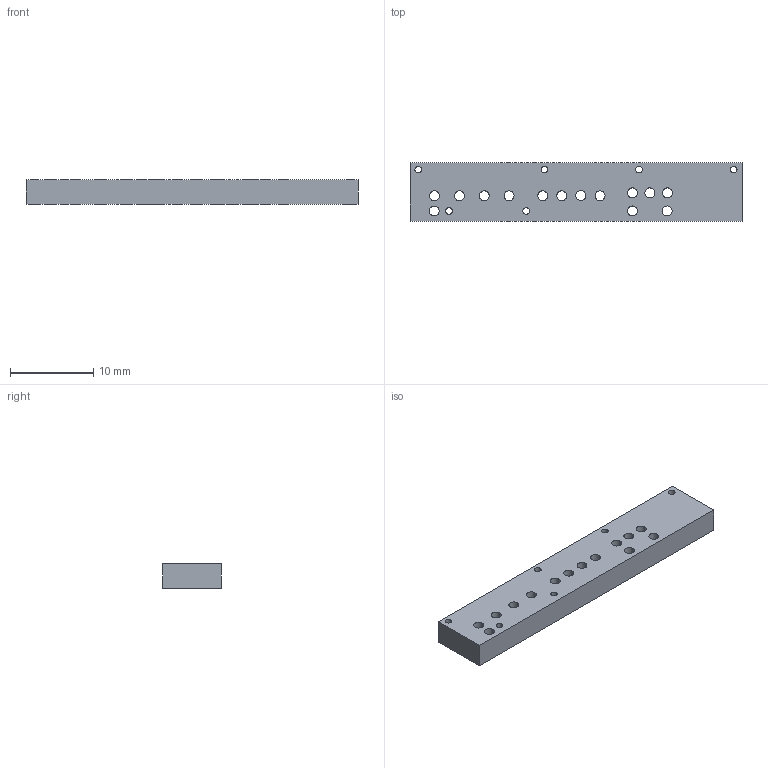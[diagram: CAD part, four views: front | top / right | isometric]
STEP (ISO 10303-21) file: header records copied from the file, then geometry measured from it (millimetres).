
FILE_DESCRIPTION((''),'2;1');
FILE_NAME('YC0003AA','2021-07-28T',('admin'),(''),'PRO/ENGINEER BY PARAMETRIC TECHNOLOGY CORPORATION, 2014310','PRO/ENGINEER BY PARAMETRIC TECHNOLOGY CORPORATION, 2014310','');
FILE_SCHEMA(('CONFIG_CONTROL_DESIGN'));
Length unit declared in the file: millimetre
Products named in the file (1): YC0003AA
Bounding box: 40 x 7 x 3 mm (x, y, z)
Volume: 783.2 mm3; surface area: 1008.3 mm2
Topology: 1 solids, 1 shells, 122 faces, 348 edges, 232 vertices
Faces by surface type: plane 82, cylinder 40
Entity records: 5300 total; most frequent: CARTESIAN_POINT 702, ORIENTED_EDGE 696, DIRECTION 672, PRESENTATION_STYLE_ASSIGNMENT 367, STYLED_ITEM 351, CURVE_STYLE 348, EDGE_CURVE 348, VECTOR 268
